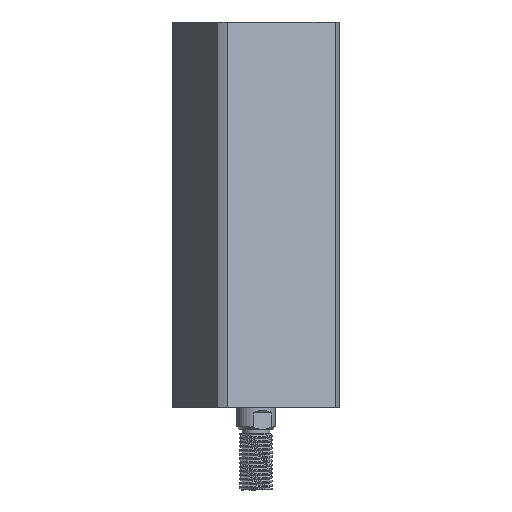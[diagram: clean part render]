
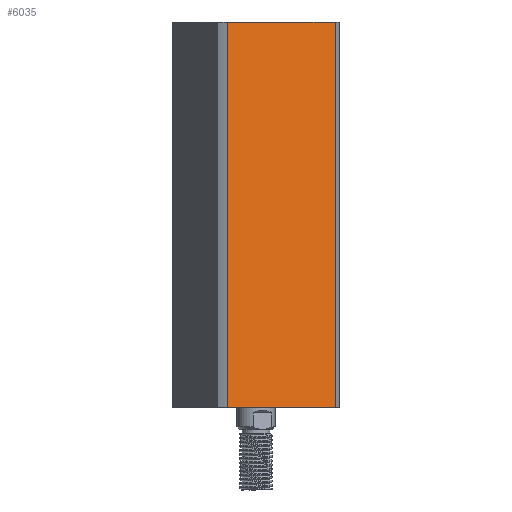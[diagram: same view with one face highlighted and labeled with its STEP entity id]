
A CAD part, left-side view. The second image highlights one B-rep face of the part: STEP entity #6035.
In plain terms, the highlighted planar face has unit normal (-0.924, -0.383, 0) as drawn and (1, 0, 0) by its records, which use the part's own axes.
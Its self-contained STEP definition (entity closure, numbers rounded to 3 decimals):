
#161 = CARTESIAN_POINT ( 'NONE',  ( 24., 24., 0. ) ) ;
#176 = EDGE_CURVE ( 'NONE', #9612, #1922, #4274, .T. ) ;
#1172 = ORIENTED_EDGE ( 'NONE', *, *, #10303, .T. ) ;
#1234 = LINE ( 'NONE', #6305, #9837 ) ;
#1335 = DIRECTION ( 'NONE',  ( 0., 0., 1. ) ) ;
#1922 = VERTEX_POINT ( 'NONE', #8482 ) ;
#2028 = VECTOR ( 'NONE', #4332, 1000. ) ;
#2271 = FACE_OUTER_BOUND ( 'NONE', #4401, .T. ) ;
#2364 = DIRECTION ( 'NONE',  ( 0., -1., 0. ) ) ;
#3193 = LINE ( 'NONE', #9957, #4886 ) ;
#3494 = VERTEX_POINT ( 'NONE', #6810 ) ;
#4038 = CARTESIAN_POINT ( 'NONE',  ( 24., 24., 140. ) ) ;
#4274 = LINE ( 'NONE', #4038, #5968 ) ;
#4332 = DIRECTION ( 'NONE',  ( 0., 1., 0. ) ) ;
#4358 = VERTEX_POINT ( 'NONE', #6328 ) ;
#4401 = EDGE_LOOP ( 'NONE', ( #8699, #1172, #6907, #6785 ) ) ;
#4755 = LINE ( 'NONE', #161, #2028 ) ;
#4886 = VECTOR ( 'NONE', #6535, 1000. ) ;
#5725 = CARTESIAN_POINT ( 'NONE',  ( 24., 24., 140. ) ) ;
#5968 = VECTOR ( 'NONE', #7285, 1000. ) ;
#6035 = ADVANCED_FACE ( 'NONE', ( #2271 ), #10731, .F. ) ;
#6048 = AXIS2_PLACEMENT_3D ( 'NONE', #5725, #7345, #2364 ) ;
#6305 = CARTESIAN_POINT ( 'NONE',  ( 24., -21.166, -160. ) ) ;
#6328 = CARTESIAN_POINT ( 'NONE',  ( 24., -21.166, 0. ) ) ;
#6535 = DIRECTION ( 'NONE',  ( 0., 0., -1. ) ) ;
#6785 = ORIENTED_EDGE ( 'NONE', *, *, #176, .F. ) ;
#6810 = CARTESIAN_POINT ( 'NONE',  ( 24., 21.166, 0. ) ) ;
#6907 = ORIENTED_EDGE ( 'NONE', *, *, #10642, .F. ) ;
#7285 = DIRECTION ( 'NONE',  ( 0., 1., 0. ) ) ;
#7304 = EDGE_CURVE ( 'NONE', #4358, #9612, #1234, .T. ) ;
#7345 = DIRECTION ( 'NONE',  ( -1., 0., 0. ) ) ;
#8482 = CARTESIAN_POINT ( 'NONE',  ( 24., 21.166, 140. ) ) ;
#8699 = ORIENTED_EDGE ( 'NONE', *, *, #7304, .F. ) ;
#8792 = CARTESIAN_POINT ( 'NONE',  ( 24., -21.166, 140. ) ) ;
#9612 = VERTEX_POINT ( 'NONE', #8792 ) ;
#9837 = VECTOR ( 'NONE', #1335, 1000. ) ;
#9957 = CARTESIAN_POINT ( 'NONE',  ( 24., 21.166, -160. ) ) ;
#10303 = EDGE_CURVE ( 'NONE', #4358, #3494, #4755, .T. ) ;
#10642 = EDGE_CURVE ( 'NONE', #1922, #3494, #3193, .T. ) ;
#10731 = PLANE ( 'NONE',  #6048 ) ;
